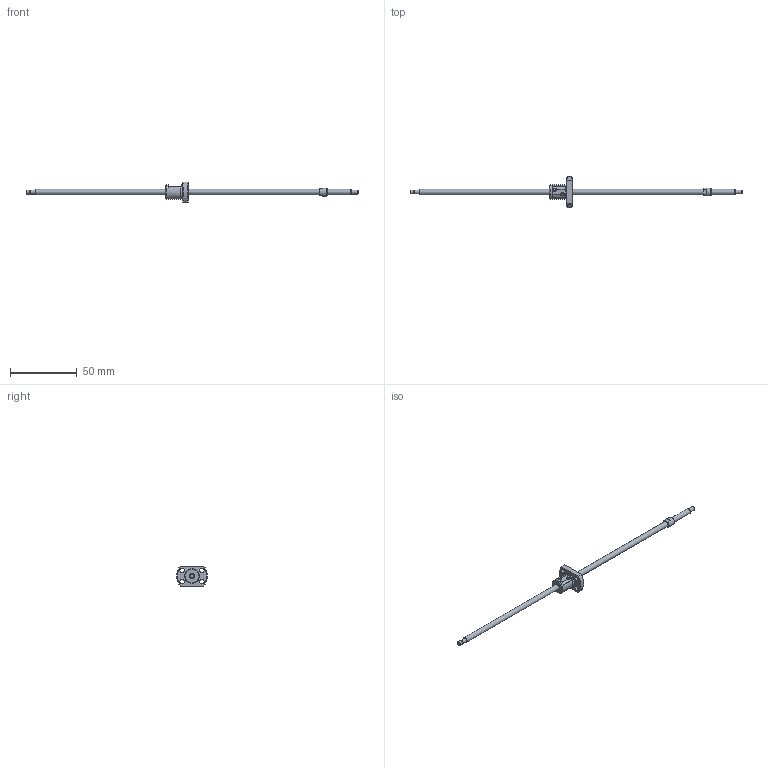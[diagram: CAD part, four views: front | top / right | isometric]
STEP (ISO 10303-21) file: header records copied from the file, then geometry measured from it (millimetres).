
FILE_DESCRIPTION(/* description */ ('STEP AP214'),/* implementation_level */ '2;1');
FILE_NAME(/* name */ 'SRT0401-209R249C7B0X(97.5Processing)',/* time_stamp */ '2026-08-04T17:48:00+02:00',/* author */ ('License CC BY-ND 4.0'),/* organization */ ('CADENAS'),/* preprocessor_version */ 'ST-DEVELOPER v20',/* originating_system */ 'PARTsolutions',/* authorisation */ ' ');
FILE_SCHEMA (('AUTOMOTIVE_DESIGN {1 0 10303 214 3 1 1}'));
Length unit declared in the file: millimetre
Products named in the file (3): SRT0401-209R249C7B0X(97.5Processing); SRT0401-209R275BCt7Processing2Shaft; SRT0401Nut
Assembly tree (2 placements, depth 2):
  SRT0401-209R249C7B0X(97.5Processing)
    SRT0401-209R275BCt7Processing2Shaft
    SRT0401Nut
Bounding box: 249 x 22.93 x 15 mm (x, y, z)
Volume: 5164.8 mm3; surface area: 4825.5 mm2
Topology: 2 solids, 2 shells, 66 faces, 162 edges, 107 vertices
Faces by surface type: plane 33, cylinder 20, cone 12, torus 1
Full cylindrical faces by diameter (mm): 1 x2, 2.7 x1, 3 x3, 3.4 x4, 4 x3, 6 x1, 10.5 x1, 11 x1
Entity records: 1843 total; most frequent: CARTESIAN_POINT 347, DIRECTION 308, ORIENTED_EDGE 248, AXIS2_PLACEMENT_3D 133, EDGE_CURVE 124, EDGE_LOOP 108, FACE_BOUND 108, VERTEX_POINT 94
